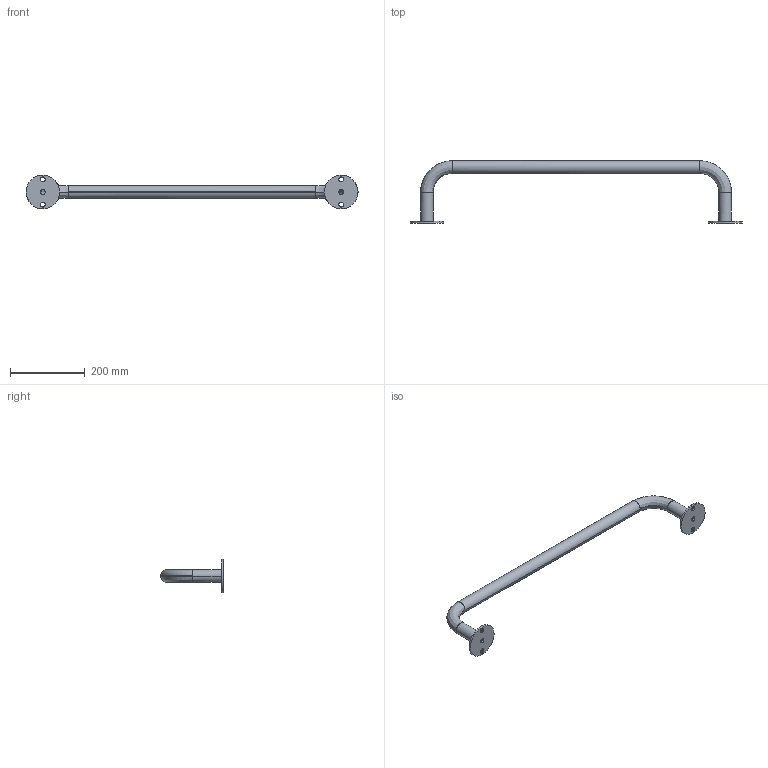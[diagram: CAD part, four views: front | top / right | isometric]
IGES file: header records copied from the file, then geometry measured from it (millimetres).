
Start section:  PTC IGES file: 100083-600.igs
Global section: file name: 100083-600.igs; native system: Creo Parametric by Parametric Technology Corporation; preprocessor: 2017170; author: stat; organization: Unknown; date: 20181127.085112; units: millimetre
Bounding box: 890 x 166.85 x 90 mm (x, y, z)
Surface area: 232984.9 mm2 (no closed solid volume)
Topology: 0 solids, 0 shells, 42 faces, 184 edges, 184 vertices
Faces by surface type: revolution 36, bspline 6
